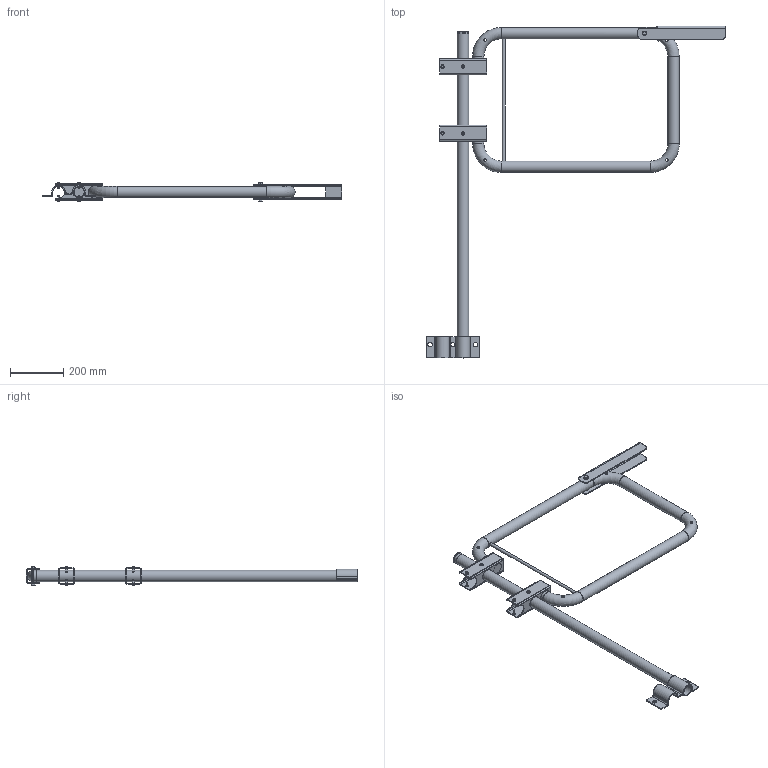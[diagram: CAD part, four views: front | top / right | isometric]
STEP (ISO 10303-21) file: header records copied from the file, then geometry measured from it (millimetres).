
FILE_DESCRIPTION((''),'2;1');
FILE_NAME('S:\Användarkataloger\AndreasA\Mina Inventor filer\Räcken\STEP\grind_ind_sido_850.stp','2010-09-07T14:03:32',('AndreasA'),(''),'Autodesk Inventor 2011','Autodesk Inventor 2011','');
FILE_SCHEMA(('AUTOMOTIVE_DESIGN { 1 0 10303 214 1 1 1 1 }'));
Length unit declared in the file: millimetre
Products named in the file (14): grind_ind_sido_850; stolpe_grind_1216; ändavslutare_42,4x2; gångjärn_grind; grindbåge_ind_850; rör_grindbåge_ind_850; rund11_grindbåge_ind; låsbygel_grind; fäste_r2; Bolted Connection; SS 3576 8; ISO 4014 M8 x 65; ISO 4032 M8; Hex Flange Head Tapping Screw - Type T - Metric M6x1 x 16
Assembly tree (22 placements, depth 3):
  grind_ind_sido_850
    stolpe_grind_1216
    ändavslutare_42,4x2
    gångjärn_grind  x2
    grindbåge_ind_850
      rör_grindbåge_ind_850
      rund11_grindbåge_ind
    låsbygel_grind
    fäste_r2
    Bolted Connection
      SS 3576 8  x2
      ISO 4014 M8 x 65
      ISO 4032 M8
    Hex Flange Head Tapping Screw - Type T - Metric M6x1 x 16  x8
Bounding box: 1122.7 x 1243 x 73.4 mm (x, y, z)
Volume: 1343742.6 mm3; surface area: 1134783.4 mm2
Topology: 20 solids, 20 shells, 396 faces, 918 edges, 569 vertices
Faces by surface type: plane 181, cylinder 109, cone 75, torus 25, bspline 6
Full cylindrical faces by diameter (mm): 6 x8, 6.647 x1, 7 x8, 8 x1, 8.4 x2, 10 x12, 11 x1, 11.63 x1, 14.5 x1, 16 x2, 38.4 x7, 42.4 x7, 45 x6
Entity records: 7830 total; most frequent: CARTESIAN_POINT 2468, DIRECTION 1064, ORIENTED_EDGE 932, EDGE_CURVE 466, AXIS2_PLACEMENT_3D 422, EDGE_LOOP 336, VERTEX_POINT 328, FACE_OUTER_BOUND 220
